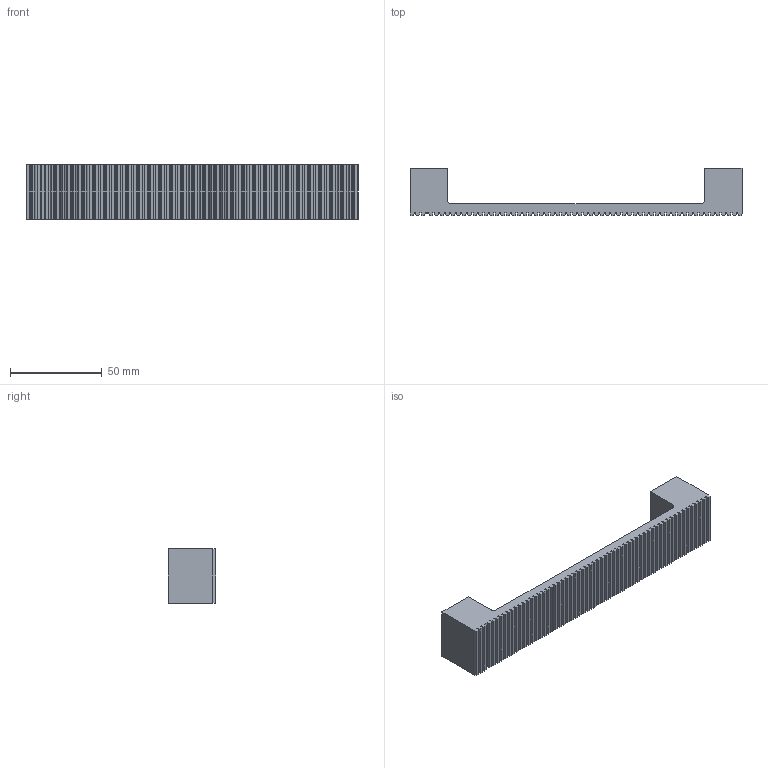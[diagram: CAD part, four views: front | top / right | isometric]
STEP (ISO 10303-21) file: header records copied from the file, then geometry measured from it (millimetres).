
FILE_DESCRIPTION( ( '' ), '1' );
FILE_NAME( 'D:/1.AUTOCAD EXPORT/Group 10/sheet_10_1/9113416.stp', '2013-10-17T04:30:34', ( '' ), ( '' ), ' ', ' ', ' ' );
FILE_SCHEMA( ( 'automotive_design' ) );
Length unit declared in the file: millimetre
Products named in the file (1): 1
Bounding box: 180.5 x 26 x 29.5 mm (x, y, z)
Volume: 54280.5 mm3; surface area: 21732 mm2
Topology: 1 solids, 1 shells, 308 faces, 900 edges, 600 vertices
Faces by surface type: plane 274, cylinder 34
Entity records: 20040 total; most frequent: STYLED_ITEM 1809, PRESENTATION_STYLE_ASSIGNMENT 1809, CARTESIAN_POINT 1809, COLOUR_RGB 1809, ORIENTED_EDGE 1800, DIRECTION 1586, EDGE_CURVE 900, CURVE_STYLE 900
